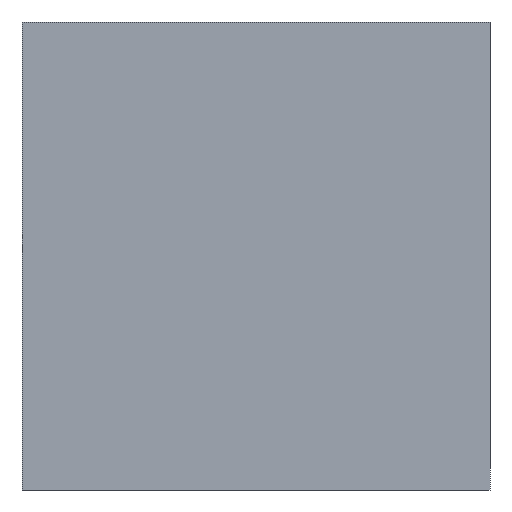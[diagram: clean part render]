
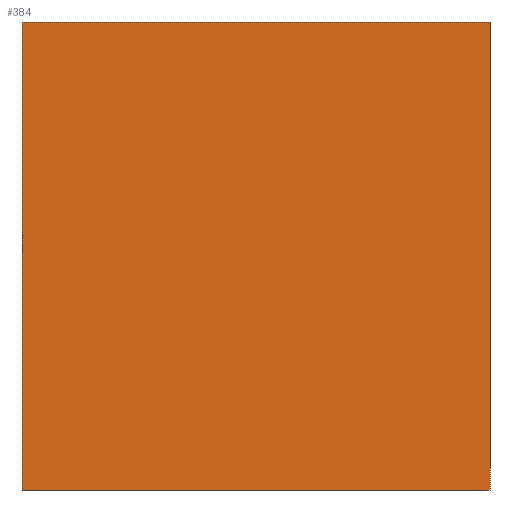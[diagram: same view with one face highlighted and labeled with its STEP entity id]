
A CAD part, left-side view. The second image highlights one B-rep face of the part: STEP entity #384.
In plain terms, the highlighted planar face has unit normal (-1, 0, 0).
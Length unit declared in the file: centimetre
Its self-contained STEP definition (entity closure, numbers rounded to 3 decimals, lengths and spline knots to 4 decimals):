
#80 = CARTESIAN_POINT ( 'NONE',  ( 0., 1000., 0. ) ) ;
#89 = VERTEX_POINT ( 'NONE', #683 ) ;
#90 = LINE ( 'NONE', #258, #685 ) ;
#97 = FACE_OUTER_BOUND ( 'NONE', #259, .T. ) ;
#159 = DIRECTION ( 'NONE',  ( 0., -1., 0. ) ) ;
#161 = DIRECTION ( 'NONE',  ( 0., -1., 0. ) ) ;
#171 = AXIS2_PLACEMENT_3D ( 'NONE', #362, #347, #983 ) ;
#221 = VERTEX_POINT ( 'NONE', #807 ) ;
#250 = CARTESIAN_POINT ( 'NONE',  ( 0., 1000., 1000. ) ) ;
#258 = CARTESIAN_POINT ( 'NONE',  ( 0., 1000., 1000. ) ) ;
#259 = EDGE_LOOP ( 'NONE', ( #288, #814, #580, #1159 ) ) ;
#288 = ORIENTED_EDGE ( 'NONE', *, *, #727, .T. ) ;
#290 = CARTESIAN_POINT ( 'NONE',  ( 0., 0., 0. ) ) ;
#311 = EDGE_CURVE ( 'NONE', #380, #221, #90, .T. ) ;
#340 = LINE ( 'NONE', #902, #724 ) ;
#347 = DIRECTION ( 'NONE',  ( 1., 0., 0. ) ) ;
#362 = CARTESIAN_POINT ( 'NONE',  ( 0., 1000., 1000. ) ) ;
#373 = EDGE_CURVE ( 'NONE', #380, #89, #340, .T. ) ;
#380 = VERTEX_POINT ( 'NONE', #250 ) ;
#384 = ADVANCED_FACE ( 'NONE', ( #97 ), #521, .F. ) ;
#428 = VERTEX_POINT ( 'NONE', #290 ) ;
#459 = VECTOR ( 'NONE', #848, 100. ) ;
#472 = EDGE_CURVE ( 'NONE', #221, #428, #480, .T. ) ;
#476 = CARTESIAN_POINT ( 'NONE',  ( 0., 0., 1000. ) ) ;
#480 = LINE ( 'NONE', #476, #459 ) ;
#521 = PLANE ( 'NONE',  #171 ) ;
#580 = ORIENTED_EDGE ( 'NONE', *, *, #311, .F. ) ;
#623 = DIRECTION ( 'NONE',  ( 0., 0., -1. ) ) ;
#683 = CARTESIAN_POINT ( 'NONE',  ( 0., 1000., 0. ) ) ;
#685 = VECTOR ( 'NONE', #161, 100. ) ;
#724 = VECTOR ( 'NONE', #623, 100. ) ;
#727 = EDGE_CURVE ( 'NONE', #89, #428, #912, .T. ) ;
#807 = CARTESIAN_POINT ( 'NONE',  ( 0., 0., 1000. ) ) ;
#814 = ORIENTED_EDGE ( 'NONE', *, *, #472, .F. ) ;
#848 = DIRECTION ( 'NONE',  ( 0., 0., -1. ) ) ;
#902 = CARTESIAN_POINT ( 'NONE',  ( 0., 1000., 1000. ) ) ;
#912 = LINE ( 'NONE', #80, #1053 ) ;
#983 = DIRECTION ( 'NONE',  ( 0., 0., -1. ) ) ;
#1053 = VECTOR ( 'NONE', #159, 100. ) ;
#1159 = ORIENTED_EDGE ( 'NONE', *, *, #373, .T. ) ;
